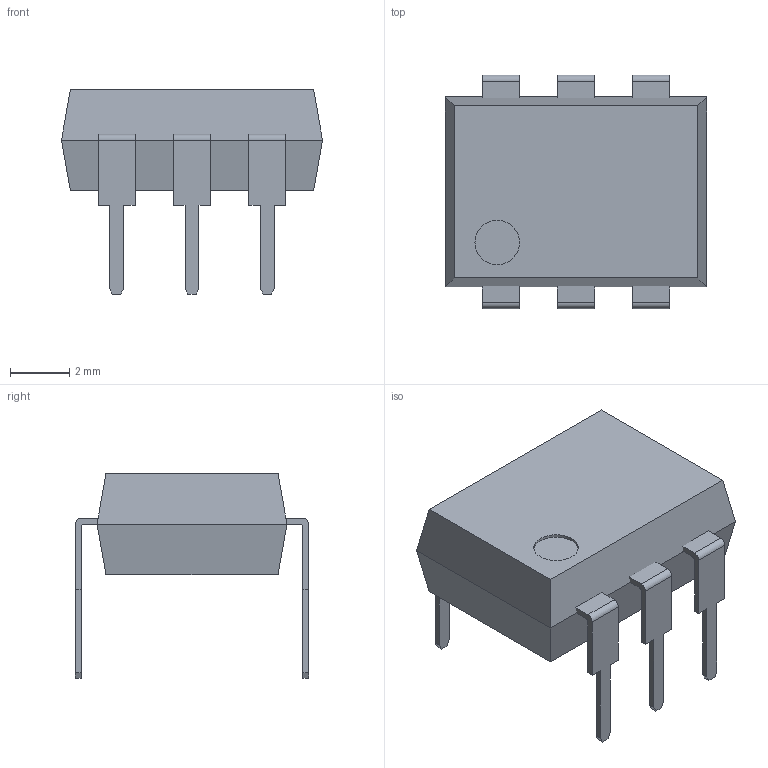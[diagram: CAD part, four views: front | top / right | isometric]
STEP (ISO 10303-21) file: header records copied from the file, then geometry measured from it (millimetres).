
FILE_DESCRIPTION (( 'STEP AP214' ), '1' );
FILE_NAME ('dip6pin.step', '2020-02-20T06:08:44', ( '' ), ( '(C)Panasonic Corporation 2018' ), '', '', '' );
FILE_SCHEMA (( 'AUTOMOTIVE_DESIGN' ));
Length unit declared in the file: millimetre
Products named in the file (1): dip6pin
Bounding box: 8.8 x 7.87 x 6.9 mm (x, y, z)
Volume: 182.3 mm3; surface area: 274.3 mm2
Topology: 7 solids, 7 shells, 109 faces, 278 edges, 184 vertices
Faces by surface type: plane 95, cylinder 14
Entity records: 3479 total; most frequent: CARTESIAN_POINT 572, ORIENTED_EDGE 556, DIRECTION 526, EDGE_CURVE 278, LINE 250, VECTOR 250, VERTEX_POINT 184, AXIS2_PLACEMENT_3D 138
